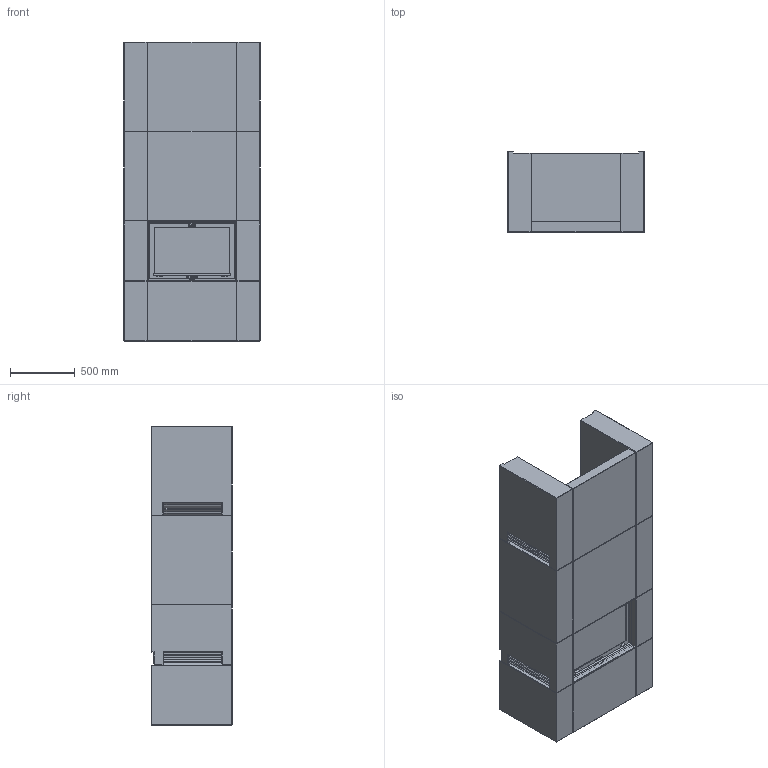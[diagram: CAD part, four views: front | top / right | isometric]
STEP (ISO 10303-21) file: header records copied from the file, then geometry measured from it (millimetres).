
FILE_DESCRIPTION( ( 'Unknown' ), '1' );
FILE_NAME( 'C:/Documents and Settings/hapierrea/Application Data/Unigraphics Solutions/Solid Edge/Insight/insight/Insight/interior models/C11C High Assembly.stp', '2010', ( 'Unknown' ), ( 'NIBE AB' ), 'PSStep 11.0', 'Solid Edge', ' ' );
FILE_SCHEMA( ( 'AUTOMOTIVE_DESIGN { 1 0 10303 214 1 1 1 1 }' ) );
Length unit declared in the file: millimetre
Products named in the file (36): Assem1; Fire i10; Grate i10 i20; Grills extension C11; Grills C11; Front extension C11C; Front set C11C; Insert i10; Firebox insulation i10; Concrete extension C11; Door i10; Door frame i10; Concrete set C11-oa0; Glass i10
Bounding box: 1050 x 620 x 2304 mm (x, y, z)
Surface area: 55216906.5 mm2
Topology: 70 solids, 70 shells, 3344 faces, 8618 edges, 5670 vertices
Faces by surface type: plane 2458, extrusion 570, cylinder 292, cone 20, sphere 4
Full cylindrical faces by diameter (mm): 10 x44, 12 x2, 100 x6, 200 x6
Entity records: 71215 total; most frequent: CARTESIAN_POINT 18351, ORIENTED_EDGE 8554, DIRECTION 6767, EDGE_CURVE 4277, VECTOR 2839, VERTEX_POINT 2834, LINE 2554, AXIS2_PLACEMENT_3D 1964
